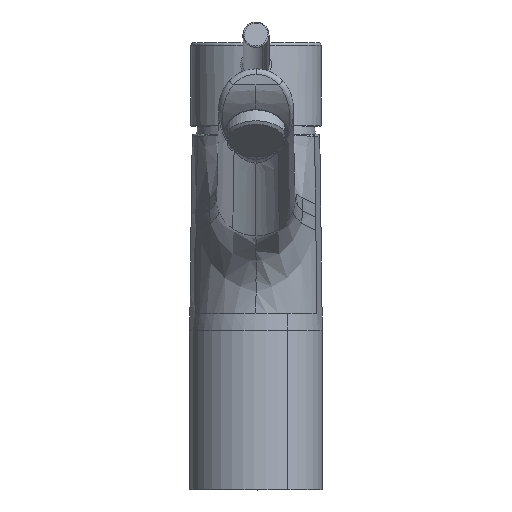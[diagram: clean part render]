
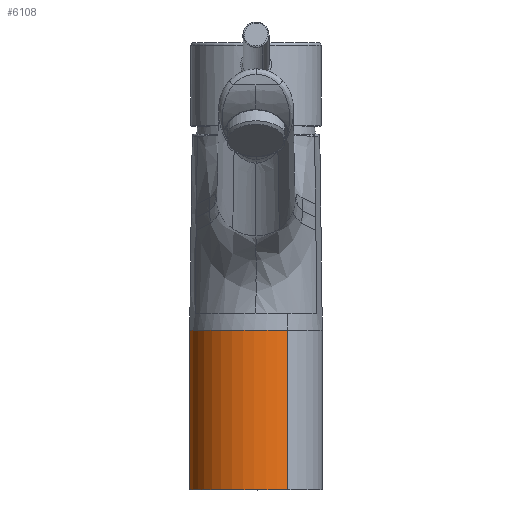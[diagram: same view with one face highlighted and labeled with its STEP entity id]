
A CAD part, top view. The second image highlights one B-rep face of the part: STEP entity #6108.
In plain terms, the highlighted cylindrical face has radius 25.5 mm (diameter 51 mm), a partial arc.
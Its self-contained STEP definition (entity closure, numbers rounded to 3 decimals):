
#139 = DIRECTION ( 'NONE',  ( 0., 0., -1. ) ) ;
#299 = CARTESIAN_POINT ( 'NONE',  ( 0., 0.974, 0. ) ) ;
#416 = DIRECTION ( 'NONE',  ( 0., 1., 0. ) ) ;
#1090 = DIRECTION ( 'NONE',  ( 0., 1., 0. ) ) ;
#1200 = ORIENTED_EDGE ( 'NONE', *, *, #10590, .T. ) ;
#1723 = LINE ( 'NONE', #10971, #1855 ) ;
#1855 = VECTOR ( 'NONE', #3049, 1000. ) ;
#2271 = ORIENTED_EDGE ( 'NONE', *, *, #4894, .T. ) ;
#2291 = CARTESIAN_POINT ( 'NONE',  ( -12.225, -60.394, -22.378 ) ) ;
#3049 = DIRECTION ( 'NONE',  ( 0., 1., 0. ) ) ;
#3630 = DIRECTION ( 'NONE',  ( 0., 1., 0. ) ) ;
#3797 = FACE_OUTER_BOUND ( 'NONE', #10549, .T. ) ;
#3889 = AXIS2_PLACEMENT_3D ( 'NONE', #10924, #416, #7127 ) ;
#4366 = VERTEX_POINT ( 'NONE', #6360 ) ;
#4757 = EDGE_CURVE ( 'NONE', #9564, #9723, #5708, .T. ) ;
#4894 = EDGE_CURVE ( 'NONE', #11964, #4366, #9897, .T. ) ;
#5021 = EDGE_CURVE ( 'NONE', #11964, #9564, #1723, .T. ) ;
#5708 = CIRCLE ( 'NONE', #8725, 25.5 ) ;
#6035 = CYLINDRICAL_SURFACE ( 'NONE', #3889, 25.5 ) ;
#6108 = ADVANCED_FACE ( 'NONE', ( #3797 ), #6035, .T. ) ;
#6360 = CARTESIAN_POINT ( 'NONE',  ( 12.225, -60.394, 22.378 ) ) ;
#6624 = LINE ( 'NONE', #10310, #12008 ) ;
#6971 = DIRECTION ( 'NONE',  ( 0., 1., 0. ) ) ;
#7127 = DIRECTION ( 'NONE',  ( -0.479, 0., -0.878 ) ) ;
#7797 = CARTESIAN_POINT ( 'NONE',  ( -12.225, 0.974, -22.378 ) ) ;
#7932 = DIRECTION ( 'NONE',  ( 0., 0., -1. ) ) ;
#8725 = AXIS2_PLACEMENT_3D ( 'NONE', #299, #6971, #7932 ) ;
#8950 = AXIS2_PLACEMENT_3D ( 'NONE', #9676, #1090, #139 ) ;
#9034 = ORIENTED_EDGE ( 'NONE', *, *, #4757, .F. ) ;
#9564 = VERTEX_POINT ( 'NONE', #7797 ) ;
#9676 = CARTESIAN_POINT ( 'NONE',  ( 0., -60.394, 0. ) ) ;
#9723 = VERTEX_POINT ( 'NONE', #10099 ) ;
#9897 = CIRCLE ( 'NONE', #8950, 25.5 ) ;
#10099 = CARTESIAN_POINT ( 'NONE',  ( 12.225, 0.974, 22.378 ) ) ;
#10310 = CARTESIAN_POINT ( 'NONE',  ( 12.225, -29.494, 22.378 ) ) ;
#10549 = EDGE_LOOP ( 'NONE', ( #2271, #1200, #9034, #12269 ) ) ;
#10590 = EDGE_CURVE ( 'NONE', #4366, #9723, #6624, .T. ) ;
#10924 = CARTESIAN_POINT ( 'NONE',  ( 0., -29.494, 0. ) ) ;
#10971 = CARTESIAN_POINT ( 'NONE',  ( -12.225, -29.494, -22.378 ) ) ;
#11964 = VERTEX_POINT ( 'NONE', #2291 ) ;
#12008 = VECTOR ( 'NONE', #3630, 1000. ) ;
#12269 = ORIENTED_EDGE ( 'NONE', *, *, #5021, .F. ) ;
